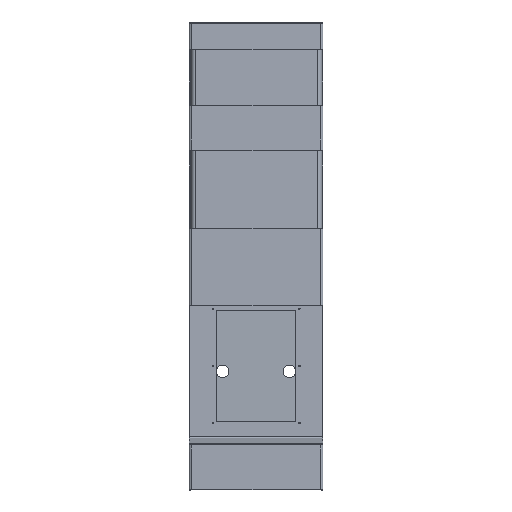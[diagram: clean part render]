
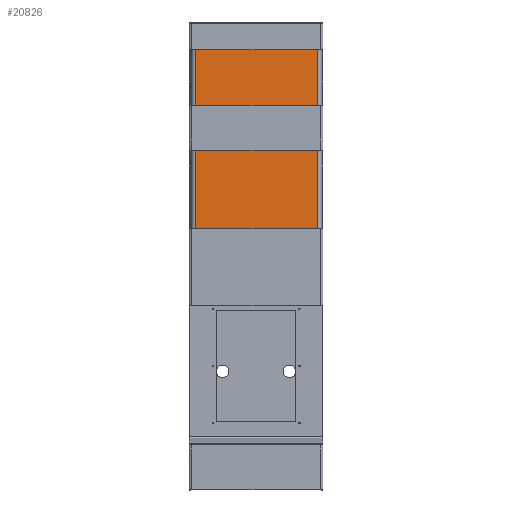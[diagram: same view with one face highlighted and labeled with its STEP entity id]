
A CAD part, top view. The second image highlights one B-rep face of the part: STEP entity #20826.
In plain terms, the highlighted planar face has unit normal (0, 0.002, 1).
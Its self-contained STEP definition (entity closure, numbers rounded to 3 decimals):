
#1150 = DIRECTION ( 'NONE',  ( 1., 0., 0. ) ) ;
#1284 = LINE ( 'NONE', #56963, #70274 ) ;
#2216 = VERTEX_POINT ( 'NONE', #85948 ) ;
#4054 = AXIS2_PLACEMENT_3D ( 'NONE', #50659, #84938, #17400 ) ;
#5562 = EDGE_CURVE ( 'NONE', #2216, #59619, #51034, .T. ) ;
#7197 = VECTOR ( 'NONE', #18539, 39.37 ) ;
#8784 = LINE ( 'NONE', #34684, #43142 ) ;
#12298 = ORIENTED_EDGE ( 'NONE', *, *, #51181, .F. ) ;
#15750 = CARTESIAN_POINT ( 'NONE',  ( 5.536, 23.093, 8.548 ) ) ;
#16981 = DIRECTION ( 'NONE',  ( 0., 1., -0.002 ) ) ;
#17400 = DIRECTION ( 'NONE',  ( 0., 1., -0.002 ) ) ;
#18539 = DIRECTION ( 'NONE',  ( 0., -1., 0.002 ) ) ;
#20826 = ADVANCED_FACE ( 'NONE', ( #73799 ), #31109, .F. ) ;
#25854 = ORIENTED_EDGE ( 'NONE', *, *, #5562, .F. ) ;
#31109 = PLANE ( 'NONE',  #4054 ) ;
#34684 = CARTESIAN_POINT ( 'NONE',  ( -5.84, 40.993, 8.516 ) ) ;
#43142 = VECTOR ( 'NONE', #1150, 39.37 ) ;
#43323 = CARTESIAN_POINT ( 'NONE',  ( -5.466, 23.093, 8.548 ) ) ;
#47118 = EDGE_CURVE ( 'NONE', #59619, #66120, #60058, .T. ) ;
#48531 = CARTESIAN_POINT ( 'NONE',  ( -5.466, 40.993, 8.516 ) ) ;
#50659 = CARTESIAN_POINT ( 'NONE',  ( -5.84, 23.093, 8.548 ) ) ;
#51034 = LINE ( 'NONE', #85186, #7197 ) ;
#51181 = EDGE_CURVE ( 'NONE', #66120, #63418, #1284, .T. ) ;
#56963 = CARTESIAN_POINT ( 'NONE',  ( -5.466, 23.093, 8.548 ) ) ;
#57746 = ORIENTED_EDGE ( 'NONE', *, *, #47118, .F. ) ;
#59619 = VERTEX_POINT ( 'NONE', #15750 ) ;
#59843 = ORIENTED_EDGE ( 'NONE', *, *, #86421, .F. ) ;
#60058 = LINE ( 'NONE', #85688, #63215 ) ;
#63215 = VECTOR ( 'NONE', #84829, 39.37 ) ;
#63418 = VERTEX_POINT ( 'NONE', #48531 ) ;
#66120 = VERTEX_POINT ( 'NONE', #43323 ) ;
#70274 = VECTOR ( 'NONE', #16981, 39.37 ) ;
#73799 = FACE_OUTER_BOUND ( 'NONE', #84042, .T. ) ;
#84042 = EDGE_LOOP ( 'NONE', ( #12298, #57746, #25854, #59843 ) ) ;
#84829 = DIRECTION ( 'NONE',  ( -1., 0., 0. ) ) ;
#84938 = DIRECTION ( 'NONE',  ( 0., -0.002, -1. ) ) ;
#85186 = CARTESIAN_POINT ( 'NONE',  ( 5.536, 23.093, 8.548 ) ) ;
#85688 = CARTESIAN_POINT ( 'NONE',  ( -5.84, 23.093, 8.548 ) ) ;
#85948 = CARTESIAN_POINT ( 'NONE',  ( 5.536, 40.993, 8.516 ) ) ;
#86421 = EDGE_CURVE ( 'NONE', #63418, #2216, #8784, .T. ) ;
